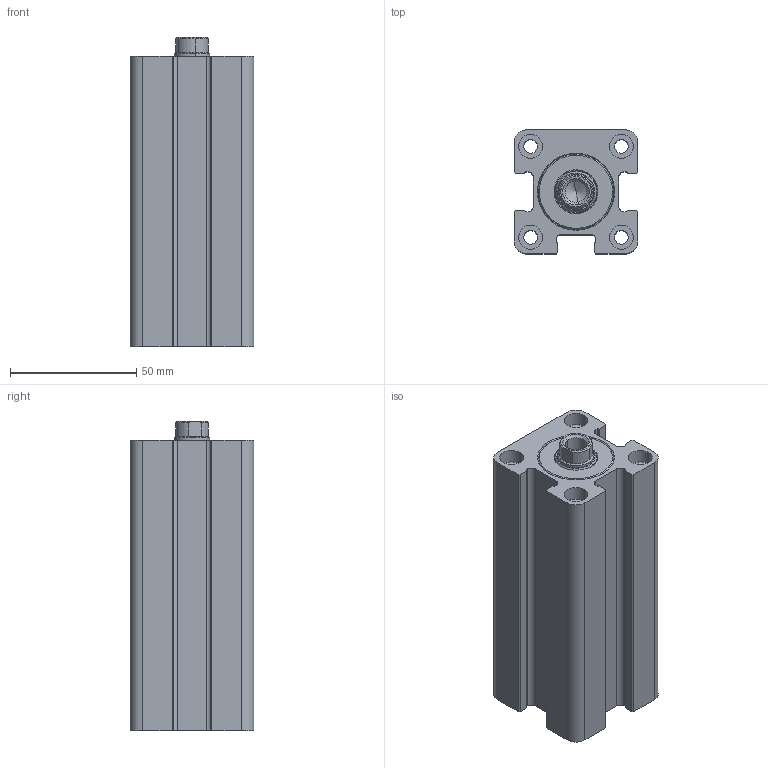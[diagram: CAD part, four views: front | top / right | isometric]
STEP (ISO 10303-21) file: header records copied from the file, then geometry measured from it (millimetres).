
FILE_DESCRIPTION (( 'STEP AP214' ), '1' );
FILE_NAME ('KSWC_03_M_25_14_70_WEB.STEP', '2021-08-15T14:40:06', ( '' ), ( '' ), 'SwSTEP 2.0', 'SolidWorks 2021', '' );
FILE_SCHEMA (( 'AUTOMOTIVE_DESIGN' ));
Length unit declared in the file: millimetre
Products named in the file (6): KSWC_03_25_14_烰_KAPAK; K06-14X18_6X2_3X3_3 (K06-014); KSWC_03_25_GOVDE_WEB; KSWC_03_M_25_14_70_WEB; 14_K_MIL_WEB; KSWC_03_25_14_ON_KAPAK
Assembly tree (5 placements, depth 3):
  KSWC_03_M_25_14_70_WEB
    KSWC_03_25_GOVDE_WEB
    KSWC_03_25_14_ON_KAPAK
      KSWC_03_25_14_烰_KAPAK
      K06-14X18_6X2_3X3_3 (K06-014)
    14_K_MIL_WEB
Bounding box: 49 x 49 x 122.5 mm (x, y, z)
Volume: 202561.7 mm3; surface area: 53318.2 mm2
Topology: 4 solids, 4 shells, 404 faces, 996 edges, 639 vertices
Faces by surface type: plane 147, bspline 121, cylinder 91, cone 45
Entity records: 16786 total; most frequent: CARTESIAN_POINT 7598, ORIENTED_EDGE 1988, DIRECTION 1537, EDGE_CURVE 994, VERTEX_POINT 639, LINE 513, VECTOR 513, AXIS2_PLACEMENT_3D 512
